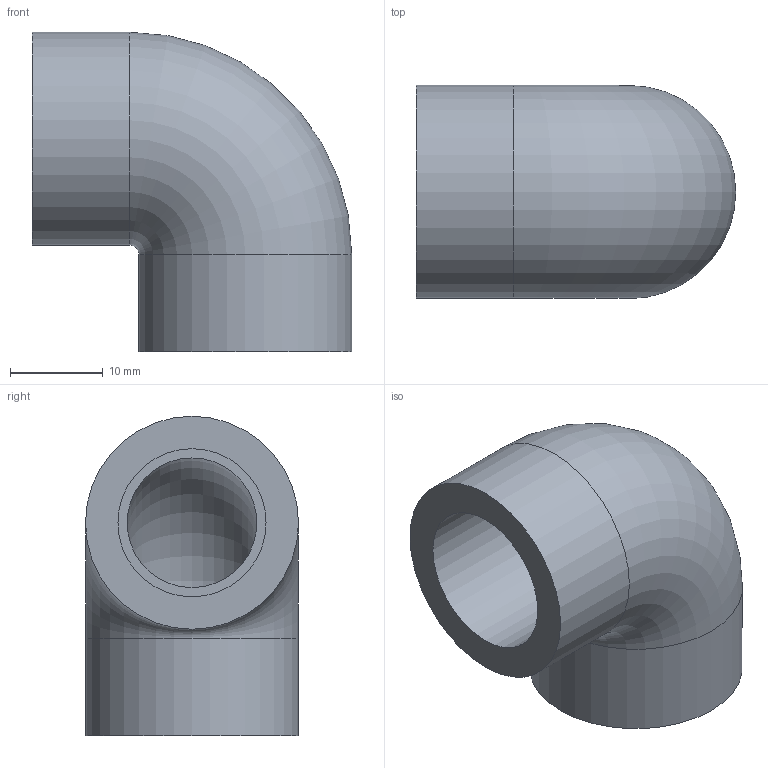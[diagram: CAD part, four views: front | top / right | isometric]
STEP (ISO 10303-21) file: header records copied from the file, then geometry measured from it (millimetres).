
FILE_DESCRIPTION(/* description */ ('PVC Elbow 90° solvent cement metric'),/* implementation_level */ '2;1');
FILE_NAME(/* name */ 'C:\Users\POLYPIPE\Desktop\DATASET INVENTOR\LIBRERIA EFFAST\RACCORDI 3DxWEB\RDR\3D_RDRGOD\3D_RDRGOD0160.stp',/* time_stamp */ '2018-01-19T14:26:51+01:00',/* author */ ('POLYPIPE'),/* organization */ ('Polypipe Italia s.r.l.'),/* preprocessor_version */ 'ST-DEVELOPER v16.1',/* originating_system */ 'Autodesk Inventor 2016',/* authorisation */ '');
FILE_SCHEMA (('CONFIG_CONTROL_DESIGN'));
Length unit declared in the file: millimetre
Products named in the file (1): 3D_RDRGOD
Bounding box: 34.5 x 23 x 34.5 mm (x, y, z)
Volume: 9076.9 mm3; surface area: 5488.4 mm2
Topology: 1 solids, 1 shells, 10 faces, 16 edges, 10 vertices
Faces by surface type: cylinder 4, plane 4, torus 2
Full cylindrical faces by diameter (mm): 16 x2, 23 x2
Entity records: 232 total; most frequent: DIRECTION 42, CARTESIAN_POINT 31, AXIS2_PLACEMENT_3D 21, EDGE_LOOP 20, ORIENTED_EDGE 20, FACE_BOUND 10, FACE_OUTER_BOUND 10, CIRCLE 10
